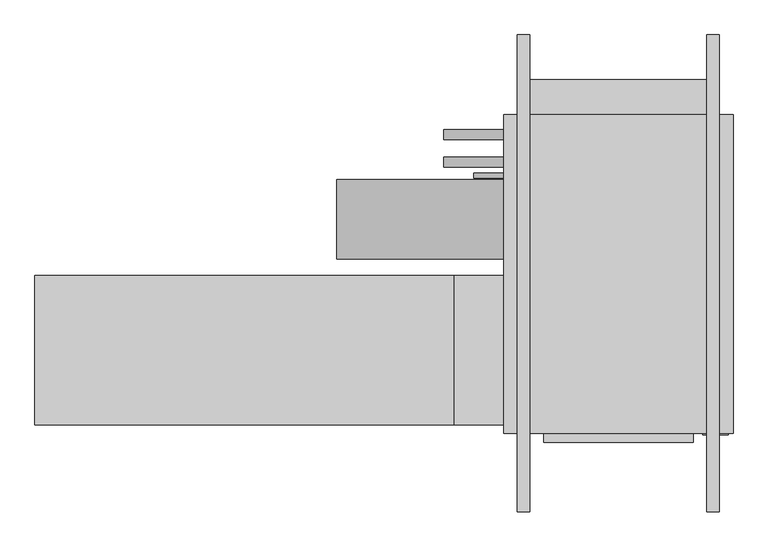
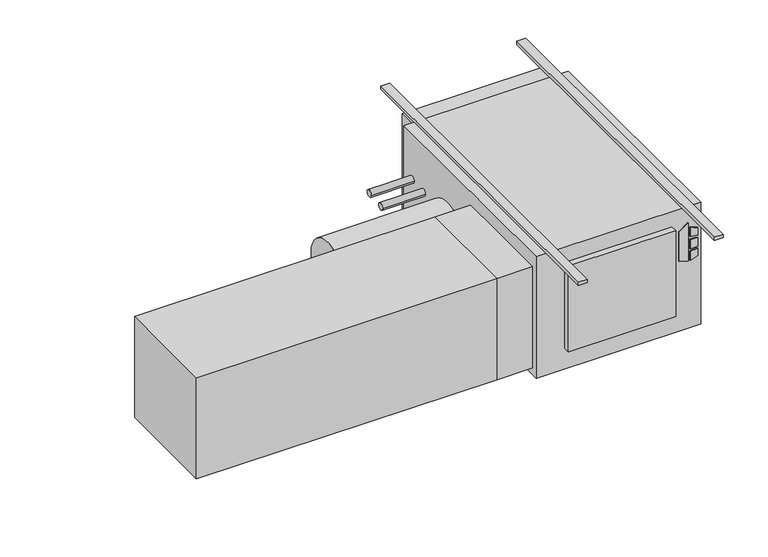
"""IFC4 building model written with IfcOpenShell, lengths in millimetres: proxy geometry."""

from ifc_helpers import new_model, si_unit, point, frame, frame_2d, origin, origin_with_axes, place, context, project, spatial, polyline, circle_curve, trimmed, segment, composite_curve, outline, extrude, source, transform, mapped, element, save


def mechanical_equipment_754c69c9(model_context):
    return source(origin(), model_context, "Body", "SweptSolid", [
        extrude(outline(polyline([(-193.2519297, 366.7868862), (-203.2, 398.9602728), (-61.0290756, 398.9602728), (-84.0510817, 366.7868862), (-193.2519297, 366.7868862)])), frame((0.0, -647.7, 0.0), z_axis=(0.0, 1.0, 0.0), x_axis=(0.0, 0.0, 1.0)), (0.0, 0.0, 1.0), 3.175),
        extrude(outline(polyline([(-114.2526443, 405.7186058), (-117.4550368, 431.8), (-88.2261958, 431.8), (-80.1617807, 405.7186058), (-114.2526443, 405.7186058)])), frame((0.0, -647.7, 0.0), z_axis=(0.0, 1.0, 0.0), x_axis=(0.0, 0.0, 1.0)), (0.0, 0.0, 1.0), 3.175),
        extrude(outline(polyline([(-166.1161712, 431.8), (-169.7816721, 405.7186058), (-203.2, 405.7186058), (-194.5657628, 431.8), (-166.1161712, 431.8)])), frame((0.0, -647.7, 0.0), z_axis=(0.0, 1.0, 0.0), x_axis=(0.0, 0.0, 1.0)), (0.0, 0.0, 1.0), 3.175),
        extrude(outline(polyline([(-126.8010097, 431.8), (-124.5191834, 405.7186058), (-160.4567319, 405.7186058), (-157.7154669, 431.8), (-126.8010097, 431.8)])), frame((0.0, -647.7, 0.0), z_axis=(0.0, 1.0, 0.0), x_axis=(0.0, 0.0, 1.0)), (0.0, 0.0, 1.0), 3.175),
        extrude(outline(polyline([(342.9, -666.877), (-38.1, -666.877), (-38.1, -644.525), (342.9, -644.525), (342.9, -666.877)])), frame((0.0, 0.0, -381.0), z_axis=(0.0, 0.0, 1.0), x_axis=(1.0, 0.0, 0.0)), (0.0, 0.0, 1.0), 323.85),
        extrude(outline(polyline([(-1333.5, -622.3), (-1333.5, -241.3), (-266.7, -241.3), (-266.7, -622.3), (-1333.5, -622.3)])), frame((0.0, 0.0, -431.8), z_axis=(0.0, 0.0, 1.0), x_axis=(1.0, 0.0, 0.0)), (0.0, 0.0, 1.0), 381.0),
        extrude(outline(polyline([(-139.7, -241.3), (-139.7, -622.3), (-266.7, -622.3), (-266.7, -241.3), (-139.7, -241.3)])), frame((0.0, 0.0, -431.8), z_axis=(0.0, 0.0, 1.0), x_axis=(1.0, 0.0, 0.0)), (0.0, 0.0, 1.0), 381.0),
        extrude(outline(composite_curve([segment(trimmed(circle_curve(frame_2d((-98.4896516, -228.6360165)), 101.6), [point((-200.0896516, -228.6360165))], [point((3.1103484, -228.6360165))], False, "CARTESIAN"), True, "CONTINUOUS"), segment(trimmed(circle_curve(frame_2d((-98.4896516, -228.6360165)), 101.6), [point((3.1103484, -228.6360165))], [point((-200.0896516, -228.6360165))], False, "CARTESIAN"), True, "CONTINUOUS")], self_intersect=False)), frame((-565.15, 0.0, 0.0), z_axis=(1.0, 0.0, 0.0), x_axis=(0.0, 1.0, 0.0)), (0.0, 0.0, 1.0), 425.45),
        extrude(outline(composite_curve([segment(trimmed(circle_curve(frame_2d((47.625, -177.8)), 12.7), [point((34.925, -177.8))], [point((60.325, -177.8))], False, "CARTESIAN"), True, "CONTINUOUS"), segment(trimmed(circle_curve(frame_2d((47.625, -177.8)), 12.7), [point((60.325, -177.8))], [point((34.925, -177.8))], False, "CARTESIAN"), True, "CONTINUOUS")], self_intersect=False)), frame((-292.1, 0.0, 0.0), z_axis=(1.0, 0.0, 0.0), x_axis=(0.0, 1.0, 0.0)), (0.0, 0.0, 1.0), 152.4),
        extrude(outline(composite_curve([segment(trimmed(circle_curve(frame_2d((117.475, -171.45)), 12.7), [point((104.775, -171.45))], [point((130.175, -171.45))], False, "CARTESIAN"), True, "CONTINUOUS"), segment(trimmed(circle_curve(frame_2d((117.475, -171.45)), 12.7), [point((130.175, -171.45))], [point((104.775, -171.45))], False, "CARTESIAN"), True, "CONTINUOUS")], self_intersect=False)), frame((-292.1, 0.0, 0.0), z_axis=(1.0, 0.0, 0.0), x_axis=(0.0, 1.0, 0.0)), (0.0, 0.0, 1.0), 152.4),
        extrude(outline(composite_curve([segment(trimmed(circle_curve(frame_2d((12.7, -409.575)), 6.35), [point((6.35, -409.575))], [point((19.05, -409.575))], False, "CARTESIAN"), True, "CONTINUOUS"), segment(trimmed(circle_curve(frame_2d((12.7, -409.575)), 6.35), [point((19.05, -409.575))], [point((6.35, -409.575))], False, "CARTESIAN"), True, "CONTINUOUS")], self_intersect=False)), frame((-215.9, 0.0, 0.0), z_axis=(1.0, 0.0, 0.0), x_axis=(0.0, 1.0, 0.0)), (0.0, 0.0, 1.0), 76.2),
        extrude(outline(polyline([(444.5, 168.275), (444.5, -644.525), (-139.7, -644.525), (-139.7, 168.275), (444.5, 168.275)])), frame((0.0, 0.0, -457.2), z_axis=(0.0, 0.0, 1.0), x_axis=(1.0, 0.0, 0.0)), (0.0, 0.0, 1.0), 457.2),
        extrude(outline(polyline([(-95.25, 257.175), (400.05, 257.175), (400.05, 168.275), (-95.25, 168.275), (-95.25, 257.175)])), frame((0.0, 0.0, -381.0), z_axis=(0.0, 0.0, 1.0), x_axis=(1.0, 0.0, 0.0)), (0.0, 0.0, 1.0), 355.6),
        extrude(outline(polyline([(-73.025, 371.475), (-73.025, -844.677), (-104.775, -844.677), (-104.775, 371.475), (-73.025, 371.475)])), origin_with_axes(), (0.0, 0.0, 1.0), 12.7),
        extrude(outline(polyline([(409.575, 371.475), (409.575, -844.677), (377.825, -844.677), (377.825, 371.475), (409.575, 371.475)])), origin_with_axes(), (0.0, 0.0, 1.0), 12.7),
    ])


if __name__ == "__main__":
    model = new_model("IFC4")
    model_context = context("Model", 3, world=origin())
    ifc_project = project(units=[si_unit("LENGTHUNIT", "METRE", prefix="MILLI")], contexts=[model_context])
    site = spatial("IfcSite", under=ifc_project)
    building = spatial("IfcBuilding", under=site)
    placement = place(None, origin())
    mechanical_equipment_shape = mechanical_equipment_754c69c9(model_context)
    element("IfcBuildingElementProxy", 1, Name="High_Capacity_Horizontal_Cabinet_Fan_Coil_Unit_-_HTY_-_IEC_-_2-Pipe_WO-Attenuator_LH Side_2022 : Size 06 - 277v/60Hz/1Ph - 8/0 Coil - 8\" AirIn", ObjectType="High_Capacity_Horizontal_Cabinet_Fan_Coil_Unit_-_HTY_-_IEC_-_2-Pipe_WO-Attenuator_LH Side_2022 : Size 06 - 277v/60Hz/1Ph - 8/0 Coil - 8\" AirIn", at=placement, inside=building, context=model_context, shape_type="MappedRepresentation", body=[
        mapped(mechanical_equipment_shape, transform((0.0, 0.0, 0.0), x_axis=(1.0, 0.0, 0.0), y_axis=(0.0, 1.0, 0.0), z_axis=(0.0, 0.0, 1.0))),
    ])
    save(model, "model.ifc")
